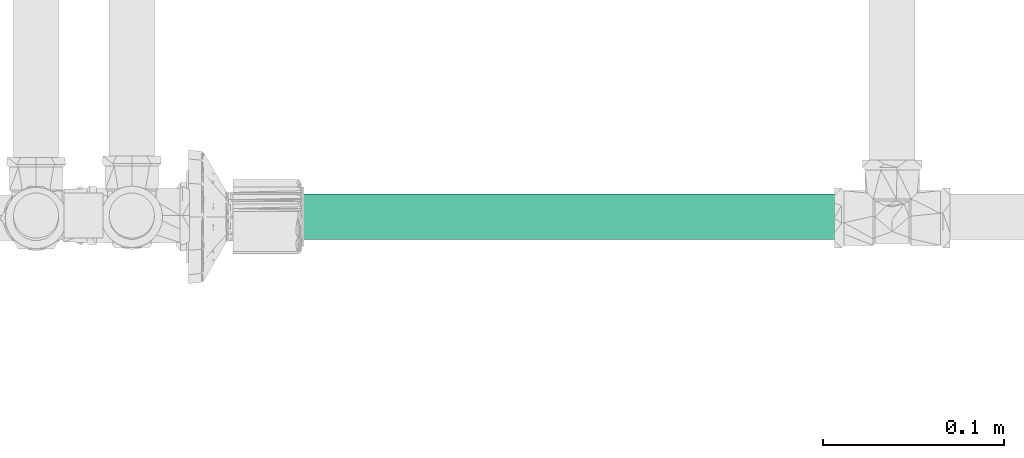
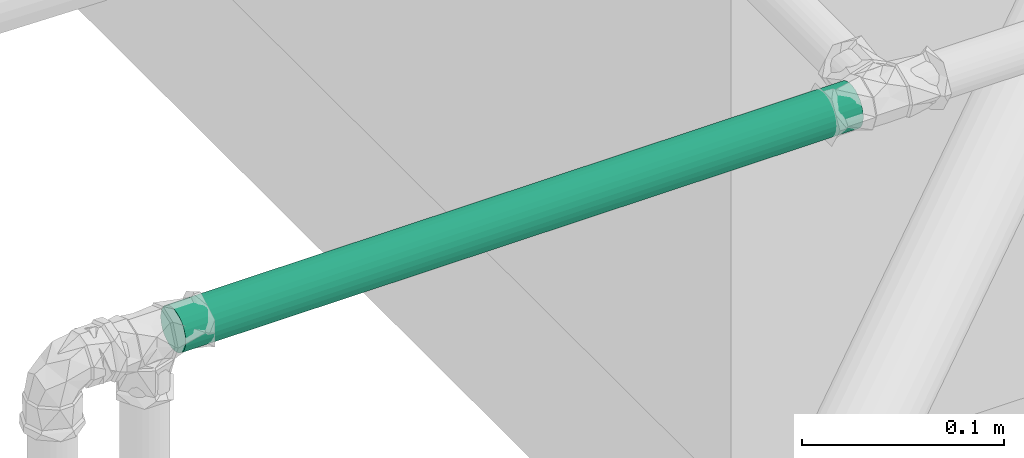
# One storey, part 193 of 589: 1 flow segment.
"""IFC2X3 building model written with IfcOpenShell, lengths in millimetres."""

from ifc_helpers import new_model, entity, si_unit, converted_unit, derived_unit, direction, frame, origin, origin_2d_with_axis, place, context, subcontext, project, spatial, circle, extrude, type_object, element, save


model = new_model("IFC2X3")

# Units and contexts
model_context = context("Model", 3, precision=0.01, world=origin(), true_north=direction((6.123031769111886e-17, 1.0)))
body_context = subcontext(model_context, "Body", "Model", "MODEL_VIEW")
ifc_project = project(units=[si_unit("LENGTHUNIT", "METRE", prefix="MILLI"), si_unit("AREAUNIT", "SQUARE_METRE"), si_unit("VOLUMEUNIT", "CUBIC_METRE"), converted_unit("PLANEANGLEUNIT", "DEGREE", entity("IfcRatioMeasure", 0.017453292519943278), si_unit("PLANEANGLEUNIT", "RADIAN"), dimensions=[0, 0, 0, 0, 0, 0, 0]), si_unit("MASSUNIT", "GRAM", prefix="KILO"), derived_unit("MASSDENSITYUNIT", [(si_unit("MASSUNIT", "GRAM", prefix="KILO"), 1), (si_unit("LENGTHUNIT", "METRE"), -3)]), derived_unit("IONCONCENTRATIONUNIT", [(si_unit("MASSUNIT", "GRAM", prefix="KILO"), 1), (si_unit("LENGTHUNIT", "METRE"), -3)]), derived_unit("MOMENTOFINERTIAUNIT", [(si_unit("LENGTHUNIT", "METRE"), 4)]), si_unit("TIMEUNIT", "SECOND"), si_unit("FREQUENCYUNIT", "HERTZ"), si_unit("THERMODYNAMICTEMPERATUREUNIT", "DEGREE_CELSIUS"), derived_unit("THERMALTRANSMITTANCEUNIT", [(si_unit("MASSUNIT", "GRAM", prefix="KILO"), 1), (si_unit("THERMODYNAMICTEMPERATUREUNIT", "KELVIN"), -1), (si_unit("TIMEUNIT", "SECOND"), -3)]), derived_unit("THERMALCONDUCTANCEUNIT", [(si_unit("MASSUNIT", "GRAM", prefix="KILO"), 1), (si_unit("THERMODYNAMICTEMPERATUREUNIT", "KELVIN"), -1), (si_unit("TIMEUNIT", "SECOND"), -3), (si_unit("LENGTHUNIT", "METRE"), 1)]), derived_unit("VOLUMETRICFLOWRATEUNIT", [(si_unit("LENGTHUNIT", "METRE"), 3), (si_unit("TIMEUNIT", "SECOND"), -1)]), derived_unit("MASSFLOWRATEUNIT", [(si_unit("MASSUNIT", "GRAM", prefix="KILO"), 1), (si_unit("TIMEUNIT", "SECOND"), -1)]), derived_unit("ROTATIONALFREQUENCYUNIT", [(si_unit("TIMEUNIT", "SECOND"), -1)]), si_unit("ELECTRICCURRENTUNIT", "AMPERE"), si_unit("ELECTRICVOLTAGEUNIT", "VOLT"), si_unit("POWERUNIT", "WATT"), si_unit("FORCEUNIT", "NEWTON", prefix="KILO"), si_unit("ILLUMINANCEUNIT", "LUX"), si_unit("LUMINOUSFLUXUNIT", "LUMEN"), si_unit("LUMINOUSINTENSITYUNIT", "CANDELA"), derived_unit("USERDEFINED", [(si_unit("MASSUNIT", "GRAM", prefix="KILO"), -1), (si_unit("LENGTHUNIT", "METRE"), -2), (si_unit("TIMEUNIT", "SECOND"), 3), (si_unit("LUMINOUSFLUXUNIT", "LUMEN"), 1)]), derived_unit("USERDEFINED", [(si_unit("MASSUNIT", "GRAM", prefix="KILO"), 1), (si_unit("TIMEUNIT", "SECOND"), -3), (si_unit("LENGTHUNIT", "METRE"), 3), (si_unit("ELECTRICCURRENTUNIT", "AMPERE"), -2)]), derived_unit("SOUNDPOWERUNIT", [(si_unit("MASSUNIT", "GRAM", prefix="KILO"), 1), (si_unit("TIMEUNIT", "SECOND"), -3), (si_unit("LENGTHUNIT", "METRE"), 2)]), derived_unit("SOUNDPRESSUREUNIT", [(si_unit("MASSUNIT", "GRAM", prefix="KILO"), 1), (si_unit("LENGTHUNIT", "METRE"), -1), (si_unit("TIMEUNIT", "SECOND"), -2)]), derived_unit("LINEARVELOCITYUNIT", [(si_unit("LENGTHUNIT", "METRE"), 1), (si_unit("TIMEUNIT", "SECOND"), -1)]), si_unit("PRESSUREUNIT", "PASCAL"), derived_unit("USERDEFINED", [(si_unit("MASSUNIT", "GRAM", prefix="KILO"), 1), (si_unit("LENGTHUNIT", "METRE"), -2), (si_unit("TIMEUNIT", "SECOND"), -2)]), derived_unit("LINEARFORCEUNIT", [(si_unit("MASSUNIT", "GRAM", prefix="KILO"), 1), (si_unit("TIMEUNIT", "SECOND"), -2)]), derived_unit("PLANARFORCEUNIT", [(si_unit("MASSUNIT", "GRAM", prefix="KILO"), 1), (si_unit("LENGTHUNIT", "METRE"), -1), (si_unit("TIMEUNIT", "SECOND"), -2)]), derived_unit("SPECIFICHEATCAPACITYUNIT", [(si_unit("THERMODYNAMICTEMPERATUREUNIT", "KELVIN"), -1), (si_unit("LENGTHUNIT", "METRE"), 2), (si_unit("TIMEUNIT", "SECOND"), -2)]), derived_unit("HEATINGVALUEUNIT", [(si_unit("LENGTHUNIT", "METRE"), 2), (si_unit("TIMEUNIT", "SECOND"), -2)]), derived_unit("VAPORPERMEABILITYUNIT", [(si_unit("LENGTHUNIT", "METRE"), -1), (si_unit("TIMEUNIT", "SECOND"), 1)]), derived_unit("DYNAMICVISCOSITYUNIT", [(si_unit("MASSUNIT", "GRAM", prefix="KILO"), 1), (si_unit("TIMEUNIT", "SECOND"), -1), (si_unit("LENGTHUNIT", "METRE"), -1)]), derived_unit("THERMALEXPANSIONCOEFFICIENTUNIT", [(si_unit("THERMODYNAMICTEMPERATUREUNIT", "KELVIN"), -1)]), derived_unit("MODULUSOFELASTICITYUNIT", [(si_unit("MASSUNIT", "GRAM", prefix="KILO"), 1), (si_unit("LENGTHUNIT", "METRE"), -1), (si_unit("TIMEUNIT", "SECOND"), -2)]), derived_unit("ISOTHERMALMOISTURECAPACITYUNIT", [(si_unit("LENGTHUNIT", "METRE"), 3), (si_unit("MASSUNIT", "GRAM", prefix="KILO"), -1)]), derived_unit("MOISTUREDIFFUSIVITYUNIT", [(si_unit("TIMEUNIT", "SECOND"), -1), (si_unit("LENGTHUNIT", "METRE"), 2)])], contexts=[model_context])

# Site, building, storey
site_placement = place(None, origin())
site = spatial("IfcSite", under=ifc_project, at=site_placement, Name="Default", CompositionType="ELEMENT")
building_placement = place(site_placement, origin())
building = spatial("IfcBuilding", under=site, at=building_placement, CompositionType="ELEMENT")
storey_placement = place(building_placement, frame((0.0, 0.0, 100.0)))
storey = spatial("IfcBuildingStorey", under=building, at=storey_placement, Name="TÉRREO", CompositionType="ELEMENT", Elevation=100.0)

# Flow segment
pipe_segment_type = type_object("IfcPipeSegmentType", Name="Tipos de tubos:PVC Marrom Soldável", PredefinedType="NOTDEFINED")
flow_segment_placement = place(storey_placement, origin())
element("IfcFlowSegment", 1, at=flow_segment_placement, inside=storey, type_object=pipe_segment_type, Name="Tipos de tubos:PVC Marrom Soldável", ObjectType="Tipos de tubos:PVC Marrom Soldável", context=body_context, shape_type="SweptSolid", body=[
    extrude(circle(Radius=12.5, at=origin_2d_with_axis()), frame((7369.969381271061, -1892.4193778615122, 3000.0), z_axis=(1.0, 0.0, 0.0), x_axis=(0.0, 1.0, 0.0)), (0.0, 0.0, 1.0), 388.27742301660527),
])

save(model, "model.ifc")
